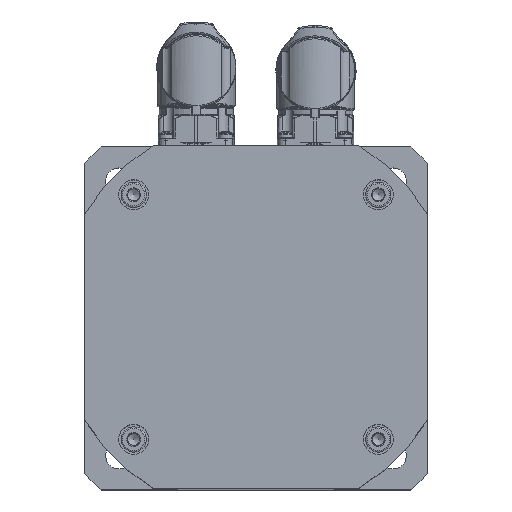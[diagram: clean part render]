
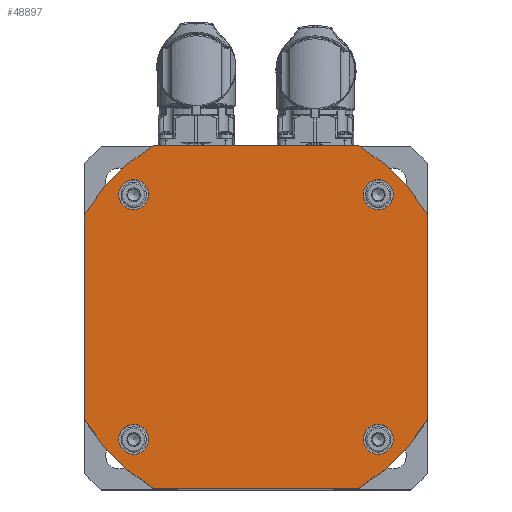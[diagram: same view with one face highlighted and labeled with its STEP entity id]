
A CAD part, top view. The second image highlights one B-rep face of the part: STEP entity #48897.
In plain terms, the highlighted planar face has unit normal (0, 0, 1).
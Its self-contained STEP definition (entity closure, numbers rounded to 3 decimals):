
#7400=FACE_BOUND('',#11566,.T.);
#7401=FACE_BOUND('',#11567,.T.);
#7402=FACE_BOUND('',#11568,.T.);
#7403=FACE_BOUND('',#11569,.T.);
#7404=FACE_BOUND('',#11570,.T.);
#7815=PLANE('',#52114);
#11566=EDGE_LOOP('',(#33661));
#11567=EDGE_LOOP('',(#33662));
#11568=EDGE_LOOP('',(#33663));
#11569=EDGE_LOOP('',(#33664));
#11570=EDGE_LOOP('',(#33665,#33666,#33667,#33668,#33669,#33670,#33671,#33672));
#14995=CIRCLE('',#52083,5.);
#14997=CIRCLE('',#52087,5.);
#14999=CIRCLE('',#52091,5.);
#15001=CIRCLE('',#52095,5.);
#15004=CIRCLE('',#52100,67.);
#15006=CIRCLE('',#52104,67.);
#15008=CIRCLE('',#52108,67.);
#15010=CIRCLE('',#52112,67.);
#17758=LINE('',#70968,#19579);
#17762=LINE('',#70980,#19583);
#17766=LINE('',#70992,#19587);
#17770=LINE('',#71002,#19591);
#19579=VECTOR('',#57903,68.782);
#19583=VECTOR('',#57915,68.782);
#19587=VECTOR('',#57927,68.782);
#19591=VECTOR('',#57939,68.782);
#21450=VERTEX_POINT('',#70932);
#21452=VERTEX_POINT('',#70938);
#21454=VERTEX_POINT('',#70944);
#21456=VERTEX_POINT('',#70950);
#21460=VERTEX_POINT('',#70959);
#21461=VERTEX_POINT('',#70961);
#21463=VERTEX_POINT('',#70967);
#21465=VERTEX_POINT('',#70973);
#21467=VERTEX_POINT('',#70979);
#21469=VERTEX_POINT('',#70985);
#21471=VERTEX_POINT('',#70991);
#21473=VERTEX_POINT('',#70997);
#26098=EDGE_CURVE('',#21450,#21450,#14995,.T.);
#26100=EDGE_CURVE('',#21452,#21452,#14997,.T.);
#26102=EDGE_CURVE('',#21454,#21454,#14999,.T.);
#26104=EDGE_CURVE('',#21456,#21456,#15001,.T.);
#26108=EDGE_CURVE('',#21461,#21460,#15004,.T.);
#26111=EDGE_CURVE('',#21463,#21461,#17758,.T.);
#26114=EDGE_CURVE('',#21465,#21463,#15006,.T.);
#26117=EDGE_CURVE('',#21467,#21465,#17762,.T.);
#26120=EDGE_CURVE('',#21469,#21467,#15008,.T.);
#26123=EDGE_CURVE('',#21471,#21469,#17766,.T.);
#26126=EDGE_CURVE('',#21473,#21471,#15010,.T.);
#26129=EDGE_CURVE('',#21460,#21473,#17770,.T.);
#33661=ORIENTED_EDGE('',*,*,#26098,.T.);
#33662=ORIENTED_EDGE('',*,*,#26100,.T.);
#33663=ORIENTED_EDGE('',*,*,#26102,.T.);
#33664=ORIENTED_EDGE('',*,*,#26104,.T.);
#33665=ORIENTED_EDGE('',*,*,#26129,.T.);
#33666=ORIENTED_EDGE('',*,*,#26126,.T.);
#33667=ORIENTED_EDGE('',*,*,#26123,.T.);
#33668=ORIENTED_EDGE('',*,*,#26120,.T.);
#33669=ORIENTED_EDGE('',*,*,#26117,.T.);
#33670=ORIENTED_EDGE('',*,*,#26114,.T.);
#33671=ORIENTED_EDGE('',*,*,#26111,.T.);
#33672=ORIENTED_EDGE('',*,*,#26108,.T.);
#48897=ADVANCED_FACE('',(#7400,#7401,#7402,#7403,#7404),#7815,.T.);
#52083=AXIS2_PLACEMENT_3D('',#70933,#57862,#57863);
#52087=AXIS2_PLACEMENT_3D('',#70939,#57870,#57871);
#52091=AXIS2_PLACEMENT_3D('',#70945,#57878,#57879);
#52095=AXIS2_PLACEMENT_3D('',#70951,#57886,#57887);
#52100=AXIS2_PLACEMENT_3D('',#70962,#57897,#57898);
#52104=AXIS2_PLACEMENT_3D('',#70974,#57909,#57910);
#52108=AXIS2_PLACEMENT_3D('',#70986,#57921,#57922);
#52112=AXIS2_PLACEMENT_3D('',#70998,#57933,#57934);
#52114=AXIS2_PLACEMENT_3D('',#71003,#57940,#57941);
#57862=DIRECTION('center_axis',(0.,0.,-1.));
#57863=DIRECTION('ref_axis',(0.,-1.,0.));
#57870=DIRECTION('center_axis',(0.,0.,-1.));
#57871=DIRECTION('ref_axis',(-1.,0.,0.));
#57878=DIRECTION('center_axis',(0.,0.,-1.));
#57879=DIRECTION('ref_axis',(0.,1.,0.));
#57886=DIRECTION('center_axis',(0.,0.,-1.));
#57887=DIRECTION('ref_axis',(1.,0.,0.));
#57897=DIRECTION('center_axis',(0.,0.,1.));
#57898=DIRECTION('ref_axis',(0.858,0.513,0.));
#57903=DIRECTION('',(0.,1.,0.));
#57909=DIRECTION('center_axis',(0.,0.,1.));
#57910=DIRECTION('ref_axis',(0.513,-0.858,0.));
#57915=DIRECTION('',(1.,0.,0.));
#57921=DIRECTION('center_axis',(0.,0.,1.));
#57922=DIRECTION('ref_axis',(-0.858,-0.513,0.));
#57927=DIRECTION('',(0.,-1.,0.));
#57933=DIRECTION('center_axis',(0.,0.,1.));
#57934=DIRECTION('ref_axis',(-0.513,0.858,0.));
#57939=DIRECTION('',(-1.,0.,0.));
#57940=DIRECTION('center_axis',(0.,0.,1.));
#57941=DIRECTION('ref_axis',(1.,0.,0.));
#70932=CARTESIAN_POINT('',(41.012,-46.012,289.5));
#70933=CARTESIAN_POINT('Origin',(41.012,-41.012,289.5));
#70938=CARTESIAN_POINT('',(-46.012,-41.012,289.5));
#70939=CARTESIAN_POINT('Origin',(-41.012,-41.012,289.5));
#70944=CARTESIAN_POINT('',(-41.012,46.012,289.5));
#70945=CARTESIAN_POINT('Origin',(-41.012,41.012,289.5));
#70950=CARTESIAN_POINT('',(46.012,41.012,289.5));
#70951=CARTESIAN_POINT('Origin',(41.012,41.012,289.5));
#70959=CARTESIAN_POINT('',(34.391,57.5,289.5));
#70961=CARTESIAN_POINT('',(57.5,34.391,289.5));
#70962=CARTESIAN_POINT('Origin',(0.,0.,289.5));
#70967=CARTESIAN_POINT('',(57.5,-34.391,289.5));
#70968=CARTESIAN_POINT('',(57.5,-57.5,289.5));
#70973=CARTESIAN_POINT('',(34.391,-57.5,289.5));
#70974=CARTESIAN_POINT('Origin',(0.,0.,289.5));
#70979=CARTESIAN_POINT('',(-34.391,-57.5,289.5));
#70980=CARTESIAN_POINT('',(-57.5,-57.5,289.5));
#70985=CARTESIAN_POINT('',(-57.5,-34.391,289.5));
#70986=CARTESIAN_POINT('Origin',(0.,0.,289.5));
#70991=CARTESIAN_POINT('',(-57.5,34.391,289.5));
#70992=CARTESIAN_POINT('',(-57.5,57.5,289.5));
#70997=CARTESIAN_POINT('',(-34.391,57.5,289.5));
#70998=CARTESIAN_POINT('Origin',(0.,0.,289.5));
#71002=CARTESIAN_POINT('',(57.5,57.5,289.5));
#71003=CARTESIAN_POINT('Origin',(0.,0.,
289.5));
